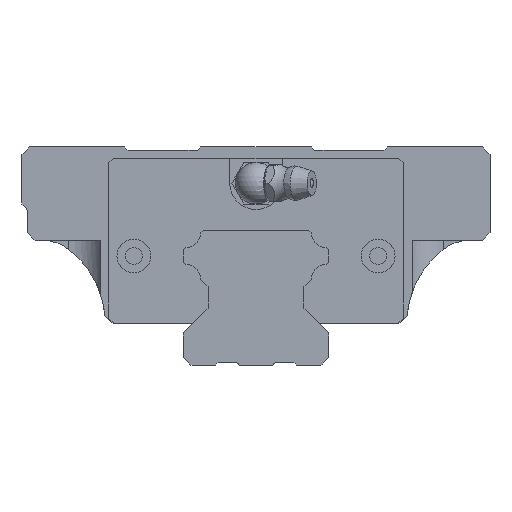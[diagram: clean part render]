
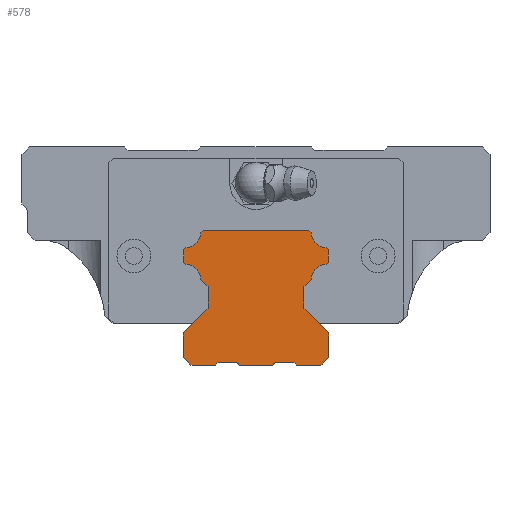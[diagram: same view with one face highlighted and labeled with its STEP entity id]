
A CAD part, front view. The second image highlights one B-rep face of the part: STEP entity #578.
In plain terms, the highlighted planar face has unit normal (0, -1, 0).
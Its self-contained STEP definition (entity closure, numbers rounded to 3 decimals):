
#366=CIRCLE('',#4056,3.1);
#368=CIRCLE('',#4062,3.1);
#379=CIRCLE('',#4095,3.1);
#381=CIRCLE('',#4101,3.1);
#578=ADVANCED_FACE('',(#910),#732,.T.);
#732=PLANE('',#4103);
#910=FACE_OUTER_BOUND('',#1144,.T.);
#1144=EDGE_LOOP('',(#2086,#2087,#2088,#2089,#2090,#2091,#2092,#2093,#2094,
#2095,#2096,#2097,#2098,#2099,#2100,#2101,#2102,#2103,#2104,#2105,#2106,
#2107,#2108,#2109,#2110,#2111,#2112,#2113,#2114,#2115,#2116,#2117));
#2086=ORIENTED_EDGE('',*,*,#2962,.T.);
#2087=ORIENTED_EDGE('',*,*,#2970,.F.);
#2088=ORIENTED_EDGE('',*,*,#2973,.F.);
#2089=ORIENTED_EDGE('',*,*,#2976,.F.);
#2090=ORIENTED_EDGE('',*,*,#2979,.F.);
#2091=ORIENTED_EDGE('',*,*,#2982,.T.);
#2092=ORIENTED_EDGE('',*,*,#2985,.T.);
#2093=ORIENTED_EDGE('',*,*,#2988,.F.);
#2094=ORIENTED_EDGE('',*,*,#2991,.T.);
#2095=ORIENTED_EDGE('',*,*,#2994,.T.);
#2096=ORIENTED_EDGE('',*,*,#2997,.F.);
#2097=ORIENTED_EDGE('',*,*,#3000,.T.);
#2098=ORIENTED_EDGE('',*,*,#3003,.T.);
#2099=ORIENTED_EDGE('',*,*,#3006,.F.);
#2100=ORIENTED_EDGE('',*,*,#3009,.T.);
#2101=ORIENTED_EDGE('',*,*,#3013,.T.);
#2102=ORIENTED_EDGE('',*,*,#2952,.F.);
#2103=ORIENTED_EDGE('',*,*,#3020,.T.);
#2104=ORIENTED_EDGE('',*,*,#2959,.T.);
#2105=ORIENTED_EDGE('',*,*,#3028,.F.);
#2106=ORIENTED_EDGE('',*,*,#3033,.F.);
#2107=ORIENTED_EDGE('',*,*,#3036,.T.);
#2108=ORIENTED_EDGE('',*,*,#3039,.F.);
#2109=ORIENTED_EDGE('',*,*,#3042,.F.);
#2110=ORIENTED_EDGE('',*,*,#3045,.F.);
#2111=ORIENTED_EDGE('',*,*,#3048,.F.);
#2112=ORIENTED_EDGE('',*,*,#3051,.F.);
#2113=ORIENTED_EDGE('',*,*,#3054,.F.);
#2114=ORIENTED_EDGE('',*,*,#3057,.F.);
#2115=ORIENTED_EDGE('',*,*,#3060,.F.);
#2116=ORIENTED_EDGE('',*,*,#3063,.T.);
#2117=ORIENTED_EDGE('',*,*,#3065,.F.);
#2480=VERTEX_POINT('',#6179);
#2481=VERTEX_POINT('',#6181);
#2482=VERTEX_POINT('',#6188);
#2485=VERTEX_POINT('',#6193);
#2488=VERTEX_POINT('',#6200);
#2489=VERTEX_POINT('',#6202);
#2495=VERTEX_POINT('',#6216);
#2497=VERTEX_POINT('',#6222);
#2499=VERTEX_POINT('',#6228);
#2501=VERTEX_POINT('',#6234);
#2503=VERTEX_POINT('',#6240);
#2505=VERTEX_POINT('',#6246);
#2507=VERTEX_POINT('',#6252);
#2509=VERTEX_POINT('',#6258);
#2511=VERTEX_POINT('',#6264);
#2513=VERTEX_POINT('',#6270);
#2515=VERTEX_POINT('',#6276);
#2517=VERTEX_POINT('',#6282);
#2519=VERTEX_POINT('',#6288);
#2521=VERTEX_POINT('',#6294);
#2527=VERTEX_POINT('',#6324);
#2529=VERTEX_POINT('',#6332);
#2531=VERTEX_POINT('',#6338);
#2533=VERTEX_POINT('',#6344);
#2535=VERTEX_POINT('',#6350);
#2537=VERTEX_POINT('',#6356);
#2539=VERTEX_POINT('',#6362);
#2541=VERTEX_POINT('',#6368);
#2543=VERTEX_POINT('',#6374);
#2545=VERTEX_POINT('',#6380);
#2547=VERTEX_POINT('',#6386);
#2549=VERTEX_POINT('',#6392);
#2952=EDGE_CURVE('',#2480,#2481,#3345,.T.);
#2959=EDGE_CURVE('',#2482,#2485,#3349,.T.);
#2962=EDGE_CURVE('',#2489,#2488,#3352,.T.);
#2970=EDGE_CURVE('',#2495,#2488,#3356,.T.);
#2973=EDGE_CURVE('',#2497,#2495,#3359,.T.);
#2976=EDGE_CURVE('',#2499,#2497,#366,.T.);
#2979=EDGE_CURVE('',#2501,#2499,#3363,.T.);
#2982=EDGE_CURVE('',#2501,#2503,#3366,.T.);
#2985=EDGE_CURVE('',#2503,#2505,#3369,.T.);
#2988=EDGE_CURVE('',#2507,#2505,#368,.T.);
#2991=EDGE_CURVE('',#2507,#2509,#3373,.T.);
#2994=EDGE_CURVE('',#2509,#2511,#3376,.T.);
#2997=EDGE_CURVE('',#2513,#2511,#3379,.T.);
#3000=EDGE_CURVE('',#2513,#2515,#3382,.T.);
#3003=EDGE_CURVE('',#2515,#2517,#3385,.T.);
#3006=EDGE_CURVE('',#2519,#2517,#3388,.T.);
#3009=EDGE_CURVE('',#2519,#2521,#3391,.T.);
#3013=EDGE_CURVE('',#2521,#2481,#3392,.T.);
#3020=EDGE_CURVE('',#2480,#2482,#3396,.T.);
#3028=EDGE_CURVE('',#2527,#2485,#3401,.T.);
#3033=EDGE_CURVE('',#2529,#2527,#3404,.T.);
#3036=EDGE_CURVE('',#2529,#2531,#3407,.T.);
#3039=EDGE_CURVE('',#2533,#2531,#3410,.T.);
#3042=EDGE_CURVE('',#2535,#2533,#3413,.T.);
#3045=EDGE_CURVE('',#2537,#2535,#3416,.T.);
#3048=EDGE_CURVE('',#2539,#2537,#3419,.T.);
#3051=EDGE_CURVE('',#2541,#2539,#3422,.T.);
#3054=EDGE_CURVE('',#2543,#2541,#379,.T.);
#3057=EDGE_CURVE('',#2545,#2543,#3426,.T.);
#3060=EDGE_CURVE('',#2547,#2545,#3429,.T.);
#3063=EDGE_CURVE('',#2547,#2549,#3432,.T.);
#3065=EDGE_CURVE('',#2489,#2549,#381,.T.);
#3345=LINE('',#6180,#3704);
#3349=LINE('',#6194,#3708);
#3352=LINE('',#6201,#3711);
#3356=LINE('',#6217,#3715);
#3359=LINE('',#6223,#3718);
#3363=LINE('',#6235,#3722);
#3366=LINE('',#6241,#3725);
#3369=LINE('',#6247,#3728);
#3373=LINE('',#6259,#3732);
#3376=LINE('',#6265,#3735);
#3379=LINE('',#6271,#3738);
#3382=LINE('',#6277,#3741);
#3385=LINE('',#6283,#3744);
#3388=LINE('',#6289,#3747);
#3391=LINE('',#6295,#3750);
#3392=LINE('',#6300,#3751);
#3396=LINE('',#6311,#3755);
#3401=LINE('',#6325,#3760);
#3404=LINE('',#6333,#3763);
#3407=LINE('',#6339,#3766);
#3410=LINE('',#6345,#3769);
#3413=LINE('',#6351,#3772);
#3416=LINE('',#6357,#3775);
#3419=LINE('',#6363,#3778);
#3422=LINE('',#6369,#3781);
#3426=LINE('',#6381,#3785);
#3429=LINE('',#6387,#3788);
#3432=LINE('',#6393,#3791);
#3704=VECTOR('',#4896,1.);
#3708=VECTOR('',#4910,1.);
#3711=VECTOR('',#4915,1.);
#3715=VECTOR('',#4929,1.);
#3718=VECTOR('',#4934,1.);
#3722=VECTOR('',#4946,1.);
#3725=VECTOR('',#4951,1.);
#3728=VECTOR('',#4956,1.);
#3732=VECTOR('',#4968,1.);
#3735=VECTOR('',#4973,1.);
#3738=VECTOR('',#4978,1.);
#3741=VECTOR('',#4983,1.);
#3744=VECTOR('',#4988,1.);
#3747=VECTOR('',#4993,1.);
#3750=VECTOR('',#4998,1.);
#3751=VECTOR('',#5007,1.);
#3755=VECTOR('',#5021,1.);
#3760=VECTOR('',#5036,1.);
#3763=VECTOR('',#5045,1.);
#3766=VECTOR('',#5050,1.);
#3769=VECTOR('',#5055,1.);
#3772=VECTOR('',#5060,1.);
#3775=VECTOR('',#5065,1.);
#3778=VECTOR('',#5070,1.);
#3781=VECTOR('',#5075,1.);
#3785=VECTOR('',#5087,1.);
#3788=VECTOR('',#5092,1.);
#3791=VECTOR('',#5097,1.);
#4056=AXIS2_PLACEMENT_3D('',#6229,#4940,#4941);
#4062=AXIS2_PLACEMENT_3D('',#6253,#4962,#4963);
#4095=AXIS2_PLACEMENT_3D('',#6375,#5081,#5082);
#4101=AXIS2_PLACEMENT_3D('',#6396,#5102,#5103);
#4103=AXIS2_PLACEMENT_3D('',#6398,#5106,#5107);
#4896=DIRECTION('',(-0.707,0.,0.707));
#4910=DIRECTION('',(0.707,0.,0.707));
#4915=DIRECTION('',(-0.707,0.,0.707));
#4929=DIRECTION('',(1.,0.,0.));
#4934=DIRECTION('',(0.707,0.,0.707));
#4940=DIRECTION('',(0.,-1.,0.));
#4941=DIRECTION('',(1.,0.,0.));
#4946=DIRECTION('',(0.707,0.,0.707));
#4951=DIRECTION('',(0.,0.,-1.));
#4956=DIRECTION('',(0.707,0.,-0.707));
#4962=DIRECTION('',(0.,-1.,0.));
#4963=DIRECTION('',(1.,0.,0.));
#4968=DIRECTION('',(0.707,0.,-0.707));
#4973=DIRECTION('',(0.,0.,-1.));
#4978=DIRECTION('',(0.707,0.,0.707));
#4983=DIRECTION('',(0.,0.,-1.));
#4988=DIRECTION('',(0.707,0.,-0.707));
#4993=DIRECTION('',(-1.,0.,0.));
#4998=DIRECTION('',(0.707,0.,0.707));
#5007=DIRECTION('',(1.,0.,0.));
#5021=DIRECTION('',(1.,0.,0.));
#5036=DIRECTION('',(-1.,0.,0.));
#5045=DIRECTION('',(-0.707,0.,0.707));
#5050=DIRECTION('',(1.,0.,0.));
#5055=DIRECTION('',(-0.707,0.,-0.707));
#5060=DIRECTION('',(0.,0.,-1.));
#5065=DIRECTION('',(0.707,0.,-0.707));
#5070=DIRECTION('',(0.,0.,-1.));
#5075=DIRECTION('',(-0.707,0.,-0.707));
#5081=DIRECTION('',(0.,-1.,0.));
#5082=DIRECTION('',(1.,0.,0.));
#5087=DIRECTION('',(-0.707,0.,-0.707));
#5092=DIRECTION('',(0.,0.,-1.));
#5097=DIRECTION('',(-0.707,0.,0.707));
#5102=DIRECTION('',(0.,-1.,0.));
#5103=DIRECTION('',(1.,0.,0.));
#5106=DIRECTION('',(0.,-1.,0.));
#5107=DIRECTION('',(0.,0.,-1.));
#6179=CARTESIAN_POINT('',(-3.2,-167.7,-43.7));
#6180=CARTESIAN_POINT('',(-3.2,-167.7,-43.7));
#6181=CARTESIAN_POINT('',(-3.7,-167.7,-43.2));
#6188=CARTESIAN_POINT('',(3.2,-167.7,-43.7));
#6193=CARTESIAN_POINT('',(3.7,-167.7,-43.2));
#6194=CARTESIAN_POINT('',(3.2,-167.7,-43.7));
#6200=CARTESIAN_POINT('',(10.171,-167.7,-17.77));
#6201=CARTESIAN_POINT('',(10.583,-167.7,-18.182));
#6202=CARTESIAN_POINT('',(10.583,-167.7,-18.182));
#6216=CARTESIAN_POINT('',(-10.171,-167.7,-17.77));
#6217=CARTESIAN_POINT('',(-10.171,-167.7,-17.77));
#6222=CARTESIAN_POINT('',(-10.583,-167.7,-18.182));
#6223=CARTESIAN_POINT('',(-10.583,-167.7,-18.182));
#6228=CARTESIAN_POINT('',(-13.518,-167.7,-21.117));
#6229=CARTESIAN_POINT('',(-13.679,-167.7,-18.021));
#6234=CARTESIAN_POINT('',(-13.93,-167.7,-21.529));
#6235=CARTESIAN_POINT('',(-13.93,-167.7,-21.529));
#6240=CARTESIAN_POINT('',(-13.93,-167.7,-23.871));
#6241=CARTESIAN_POINT('',(-13.93,-167.7,-21.529));
#6246=CARTESIAN_POINT('',(-13.518,-167.7,-24.283));
#6247=CARTESIAN_POINT('',(-13.93,-167.7,-23.871));
#6252=CARTESIAN_POINT('',(-10.583,-167.7,-27.218));
#6253=CARTESIAN_POINT('',(-13.679,-167.7,-27.379));
#6258=CARTESIAN_POINT('',(-9.23,-167.7,-28.571));
#6259=CARTESIAN_POINT('',(-10.583,-167.7,-27.218));
#6264=CARTESIAN_POINT('',(-9.23,-167.7,-32.729));
#6265=CARTESIAN_POINT('',(-9.23,-167.7,-28.571));
#6270=CARTESIAN_POINT('',(-14.,-167.7,-37.499));
#6271=CARTESIAN_POINT('',(-14.,-167.7,-37.499));
#6276=CARTESIAN_POINT('',(-14.,-167.7,-42.2));
#6277=CARTESIAN_POINT('',(-14.,-167.7,-37.499));
#6282=CARTESIAN_POINT('',(-12.5,-167.7,-43.7));
#6283=CARTESIAN_POINT('',(-14.,-167.7,-42.2));
#6288=CARTESIAN_POINT('',(-7.8,-167.7,-43.7));
#6289=CARTESIAN_POINT('',(-7.8,-167.7,-43.7));
#6294=CARTESIAN_POINT('',(-7.3,-167.7,-43.2));
#6295=CARTESIAN_POINT('',(-7.8,-167.7,-43.7));
#6300=CARTESIAN_POINT('',(-7.3,-167.7,-43.2));
#6311=CARTESIAN_POINT('',(-3.2,-167.7,-43.7));
#6324=CARTESIAN_POINT('',(7.3,-167.7,-43.2));
#6325=CARTESIAN_POINT('',(7.3,-167.7,-43.2));
#6332=CARTESIAN_POINT('',(7.8,-167.7,-43.7));
#6333=CARTESIAN_POINT('',(7.8,-167.7,-43.7));
#6338=CARTESIAN_POINT('',(12.5,-167.7,-43.7));
#6339=CARTESIAN_POINT('',(7.8,-167.7,-43.7));
#6344=CARTESIAN_POINT('',(14.,-167.7,-42.2));
#6345=CARTESIAN_POINT('',(14.,-167.7,-42.2));
#6350=CARTESIAN_POINT('',(14.,-167.7,-37.499));
#6351=CARTESIAN_POINT('',(14.,-167.7,-37.499));
#6356=CARTESIAN_POINT('',(9.23,-167.7,-32.729));
#6357=CARTESIAN_POINT('',(9.23,-167.7,-32.729));
#6362=CARTESIAN_POINT('',(9.23,-167.7,-28.571));
#6363=CARTESIAN_POINT('',(9.23,-167.7,-28.571));
#6368=CARTESIAN_POINT('',(10.583,-167.7,-27.218));
#6369=CARTESIAN_POINT('',(10.583,-167.7,-27.218));
#6374=CARTESIAN_POINT('',(13.518,-167.7,-24.283));
#6375=CARTESIAN_POINT('',(13.679,-167.7,-27.379));
#6380=CARTESIAN_POINT('',(13.93,-167.7,-23.871));
#6381=CARTESIAN_POINT('',(13.93,-167.7,-23.871));
#6386=CARTESIAN_POINT('',(13.93,-167.7,-21.529));
#6387=CARTESIAN_POINT('',(13.93,-167.7,-21.529));
#6392=CARTESIAN_POINT('',(13.518,-167.7,-21.117));
#6393=CARTESIAN_POINT('',(13.93,-167.7,-21.529));
#6396=CARTESIAN_POINT('',(13.679,-167.7,-18.021));
#6398=CARTESIAN_POINT('',(-13.679,-167.7,-18.021));
